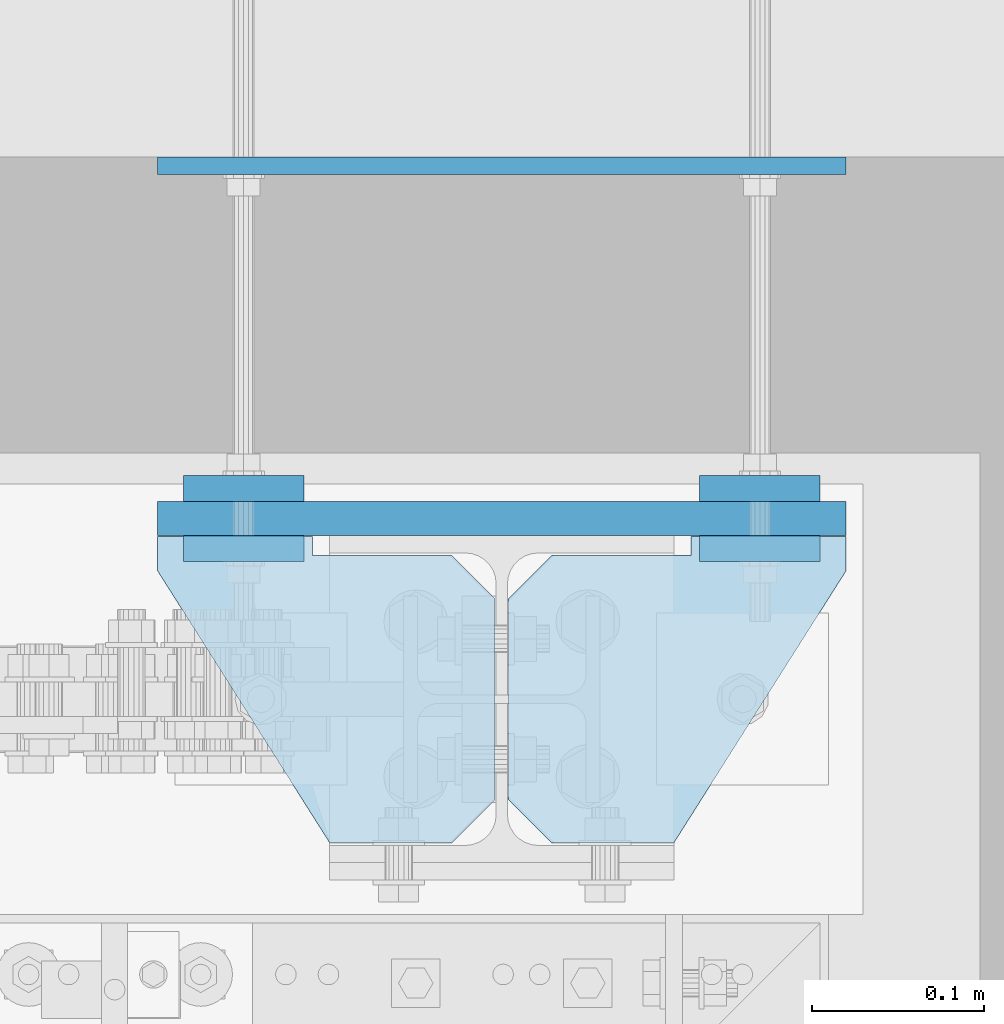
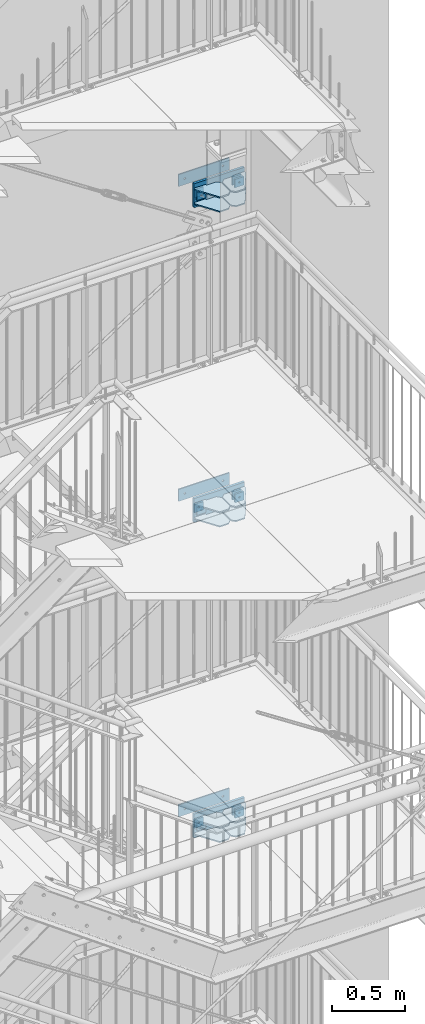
# One storey, part 211 of 825: 30 plates, 48 openings.
"""IFC2X3 building model written with IfcOpenShell, lengths in millimetres."""

from ifc_helpers import new_model, entity, si_unit, converted_unit, frame, frame_2d, origin, origin_with_axes, origin_2d_with_axis, place, context, project, spatial, polyline, circle, outline, extrude, material, layer, layer_set, element, save


model = new_model("IFC2X3")

# Units and contexts
model_context = context("Model", 3, precision=1e-09, world=origin_with_axes())
ifc_project = project(units=[si_unit("LENGTHUNIT", "METRE", prefix="MILLI"), si_unit("AREAUNIT", "SQUARE_METRE"), si_unit("VOLUMEUNIT", "CUBIC_METRE"), converted_unit("PLANEANGLEUNIT", "DEGREE", entity("IfcPlaneAngleMeasure", 0.01745329), si_unit("PLANEANGLEUNIT", "RADIAN"), dimensions=[0, 0, 0, 0, 0, 0, 0])], contexts=[model_context])

# Site, building, storey
site_placement = place(None, origin_with_axes())
site = spatial("IfcSite", under=ifc_project, at=site_placement, Name="Cnopf'sche Kinderklinik", CompositionType="ELEMENT")
building_placement = place(site_placement, origin_with_axes())
building = spatial("IfcBuilding", under=site, at=building_placement, Name="Struktur 1", CompositionType="ELEMENT")
storey_placement = place(building_placement, origin_with_axes())
storey = spatial("IfcBuildingStorey", under=building, at=storey_placement, Name="Default Storey", CompositionType="ELEMENT", Elevation=0.0)

# Plate, opening
ifc_material = material(Name="S235JR")
ifc_layer_1 = layer(ifc_material, 15.0)
ifc_layer_set_1 = layer_set([ifc_layer_1], Name="S235JR")
plate_1_placement = place(None, frame((9016.713403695, 7611.736971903, 7255.0), z_axis=(0.0, 1.0, 0.0), x_axis=(-1.0, 0.0, 0.0)))
plate_1 = element("IfcPlate", 1, at=plate_1_placement, inside=storey, material=ifc_layer_set_1, Name="-", ObjectType="-", context=model_context, shape_type="SweptSolid", body=[
    extrude(outline(polyline([(-35.0, -35.0), (35.0, -35.0), (35.0, 35.0), (-35.0, 35.0), (-35.0, -35.0)])), origin_with_axes(), (0.0, 0.0, -1.0), 15.0),
])
opening_1_placement = place(plate_1_placement, frame((-7.001000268, 0.0, 0.5), z_axis=(0.0, 0.0, 1.0), x_axis=(1.0, 0.0, 0.0)))
element("IfcOpeningElement", 2, at=opening_1_placement, cuts=plate_1, ObjectType="Opening", context=model_context, shape_type="SweptSolid", body=[
    extrude(circle(Radius=7.001, at=frame_2d((7.001, 0.0), x_axis=(1.0, 0.0))), origin(), (0.0, 0.0, -1.0), 16.0),
])

plate_2_placement = place(None, frame((9016.713403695, 7646.736971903, 7255.0), z_axis=(0.0, 1.0, 0.0), x_axis=(-1.0, 0.0, 0.0)))
plate_2 = element("IfcPlate", 3, at=plate_2_placement, inside=storey, material=ifc_layer_set_1, Name="-", ObjectType="-", context=model_context, shape_type="SweptSolid", body=[
    extrude(outline(polyline([(-35.0, -35.0), (35.0, -35.0), (35.0, 35.0), (-35.0, 35.0), (-35.0, -35.0)])), origin_with_axes(), (0.0, 0.0, -1.0), 15.0),
])
opening_2_placement = place(plate_2_placement, frame((-7.001000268, 0.0, 0.5), z_axis=(0.0, 0.0, 1.0), x_axis=(1.0, 0.0, 0.0)))
element("IfcOpeningElement", 4, at=opening_2_placement, cuts=plate_2, ObjectType="Opening", context=model_context, shape_type="SweptSolid", body=[
    extrude(circle(Radius=7.001, at=frame_2d((7.001, 0.0), x_axis=(1.0, 0.0))), origin(), (0.0, 0.0, -1.0), 16.0),
])

# Plate, openings
ifc_layer_2 = layer(ifc_material, 10.0)
ifc_layer_set_2 = layer_set([ifc_layer_2], Name="S235JR")
plate_3_placement = place(None, frame((8866.713402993, 7831.736971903, 7255.000000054), z_axis=(0.0, -1.0, 0.0), x_axis=(1.0, 0.0, 0.0)))
plate_3 = element("IfcPlate", 5, at=plate_3_placement, inside=storey, material=ifc_layer_set_2, Name="-", ObjectType="-", context=model_context, shape_type="SweptSolid", body=[
    extrude(outline(polyline([(-200.0, -50.0), (200.0, -50.0), (200.0, 50.0), (-200.0, 50.0), (-200.0, -50.0)])), origin_with_axes(), (0.0, 0.0, 1.0), 10.0),
])
opening_3_placement = place(plate_3_placement, frame((-3.4e-08, -5.4e-08, -0.5), z_axis=(0.0, 0.0, 1.0), x_axis=(1.0, 0.0, 0.0)))
element("IfcOpeningElement", 6, at=opening_3_placement, cuts=plate_3, ObjectType="Opening", context=model_context, shape_type="SweptSolid", body=[
    extrude(circle(Radius=7.001, at=frame_2d((150.0, 0.0), x_axis=(1.0, 0.0))), origin(), (0.0, 0.0, 1.0), 11.0),
])
opening_4_placement = place(plate_3_placement, frame((-3.4e-08, -5.4e-08, -0.5), z_axis=(0.0, 0.0, 1.0), x_axis=(1.0, 0.0, 0.0)))
element("IfcOpeningElement", 7, at=opening_4_placement, cuts=plate_3, ObjectType="Opening", context=model_context, shape_type="SweptSolid", body=[
    extrude(circle(Radius=7.001, at=frame_2d((-150.0, 0.0), x_axis=(1.0, 0.0))), origin(), (0.0, 0.0, 1.0), 11.0),
])

plate_4_placement = place(None, frame((8666.713402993, 7611.236971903, 7310.000000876), z_axis=(0.0, 0.0, 1.0), x_axis=(0.0, -1.0, 0.0)))
plate_4 = element("IfcPlate", 8, at=plate_4_placement, inside=storey, material=ifc_layer_set_2, Name="-", ObjectType="-", context=model_context, shape_type="SweptSolid", body=[
    extrude(outline(polyline([(0.0, 0.0), (20.0, 0.0), (178.0, 100.0), (178.0, 196.0), (11.0, 196.0), (11.0, 90.0), (0.0, 90.0), (0.0, 0.0)])), origin_with_axes(), (0.0, 0.0, 1.0), 10.0),
])
opening_5_placement = place(plate_4_placement, frame((0.0, 0.0, -0.01), z_axis=(0.0, 0.0, 1.0), x_axis=(1.0, 0.0, 0.0)))
element("IfcOpeningElement", 9, at=opening_5_placement, cuts=plate_4, ObjectType="Opening", context=model_context, shape_type="SweptSolid", body=[
    extrude(outline(polyline([(11.0, 196.0), (11.0, 171.0), (36.0, 196.0), (11.0, 196.0)])), origin(), (0.0, 0.0, 1.0), 10.02),
])
opening_6_placement = place(plate_4_placement, frame((0.0, 0.0, -0.01), z_axis=(0.0, 0.0, 1.0), x_axis=(1.0, 0.0, 0.0)))
element("IfcOpeningElement", 10, at=opening_6_placement, cuts=plate_4, ObjectType="Opening", context=model_context, shape_type="SweptSolid", body=[
    extrude(outline(polyline([(178.0, 196.0), (153.0, 196.0), (178.0, 171.0), (178.0, 196.0)])), origin(), (0.0, 0.0, 1.0), 10.02),
])

plate_5_placement = place(None, frame((9066.713402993, 7611.236971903, 7310.000000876), z_axis=(0.0, 0.0, -1.0), x_axis=(0.0, -1.0, 0.0)))
plate_5 = element("IfcPlate", 11, at=plate_5_placement, inside=storey, material=ifc_layer_set_2, Name="-", ObjectType="-", context=model_context, shape_type="SweptSolid", body=[
    extrude(outline(polyline([(0.0, 0.0), (20.0, 0.0), (178.0, 100.0), (178.0, 196.0), (11.0, 196.0), (11.0, 90.0), (0.0, 90.0), (0.0, 0.0)])), origin_with_axes(), (0.0, 0.0, -1.0), 10.0),
])
opening_7_placement = place(plate_5_placement, frame((11.0, 196.0, 0.01), z_axis=(0.0, 0.0, 1.0), x_axis=(0.0, -1.0, 0.0)))
element("IfcOpeningElement", 12, at=opening_7_placement, cuts=plate_5, ObjectType="Opening", context=model_context, shape_type="SweptSolid", body=[
    extrude(outline(polyline([(0.0, 0.0), (25.0, 0.0), (0.0, 25.0), (0.0, 0.0)])), origin(), (0.0, 0.0, -1.0), 10.02),
])
opening_8_placement = place(plate_5_placement, frame((178.0, 196.0, 0.01), z_axis=(0.0, 0.0, 1.0), x_axis=(-1.0, 0.0, 0.0)))
element("IfcOpeningElement", 13, at=opening_8_placement, cuts=plate_5, ObjectType="Opening", context=model_context, shape_type="SweptSolid", body=[
    extrude(outline(polyline([(0.0, 0.0), (25.0, 0.0), (0.0, 25.0), (0.0, 0.0)])), origin(), (0.0, 0.0, -1.0), 10.02),
])

plate_6_placement = place(None, frame((8666.713402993, 7611.236971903, 7190.000000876), z_axis=(0.0, 0.0, 1.0), x_axis=(0.0, -1.0, 0.0)))
plate_6 = element("IfcPlate", 14, at=plate_6_placement, inside=storey, material=ifc_layer_set_2, Name="-", ObjectType="-", context=model_context, shape_type="SweptSolid", body=[
    extrude(outline(polyline([(0.0, 0.0), (20.0, 0.0), (178.0, 100.0), (178.0, 196.0), (11.0, 196.0), (11.0, 90.0), (0.0, 90.0), (0.0, 0.0)])), origin_with_axes(), (0.0, 0.0, 1.0), 10.0),
])
opening_9_placement = place(plate_6_placement, frame((0.0, 0.0, -0.01), z_axis=(0.0, 0.0, 1.0), x_axis=(1.0, 0.0, 0.0)))
element("IfcOpeningElement", 15, at=opening_9_placement, cuts=plate_6, ObjectType="Opening", context=model_context, shape_type="SweptSolid", body=[
    extrude(outline(polyline([(11.0, 196.0), (11.0, 171.0), (36.0, 196.0), (11.0, 196.0)])), origin(), (0.0, 0.0, 1.0), 10.02),
])
opening_10_placement = place(plate_6_placement, frame((0.0, 0.0, -0.01), z_axis=(0.0, 0.0, 1.0), x_axis=(1.0, 0.0, 0.0)))
element("IfcOpeningElement", 16, at=opening_10_placement, cuts=plate_6, ObjectType="Opening", context=model_context, shape_type="SweptSolid", body=[
    extrude(outline(polyline([(178.0, 196.0), (153.0, 196.0), (178.0, 171.0), (178.0, 196.0)])), origin(), (0.0, 0.0, 1.0), 10.02),
])

plate_7_placement = place(None, frame((9066.713402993, 7611.236971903, 7190.000000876), z_axis=(0.0, 0.0, -1.0), x_axis=(0.0, -1.0, 0.0)))
plate_7 = element("IfcPlate", 17, at=plate_7_placement, inside=storey, material=ifc_layer_set_2, Name="-", ObjectType="-", context=model_context, shape_type="SweptSolid", body=[
    extrude(outline(polyline([(0.0, 0.0), (20.0, 0.0), (178.0, 100.0), (178.0, 196.0), (11.0, 196.0), (11.0, 90.0), (0.0, 90.0), (0.0, 0.0)])), origin_with_axes(), (0.0, 0.0, -1.0), 10.0),
])
opening_11_placement = place(plate_7_placement, frame((11.0, 196.0, 0.01), z_axis=(0.0, 0.0, 1.0), x_axis=(0.0, -1.0, 0.0)))
element("IfcOpeningElement", 18, at=opening_11_placement, cuts=plate_7, ObjectType="Opening", context=model_context, shape_type="SweptSolid", body=[
    extrude(outline(polyline([(0.0, 0.0), (25.0, 0.0), (0.0, 25.0), (0.0, 0.0)])), origin(), (0.0, 0.0, -1.0), 10.02),
])
opening_12_placement = place(plate_7_placement, frame((178.0, 196.0, 0.01), z_axis=(0.0, 0.0, 1.0), x_axis=(-1.0, 0.0, 0.0)))
element("IfcOpeningElement", 19, at=opening_12_placement, cuts=plate_7, ObjectType="Opening", context=model_context, shape_type="SweptSolid", body=[
    extrude(outline(polyline([(0.0, 0.0), (25.0, 0.0), (0.0, 25.0), (0.0, 0.0)])), origin(), (0.0, 0.0, -1.0), 10.02),
])

ifc_layer_3 = layer(ifc_material, 20.0)
ifc_layer_set_3 = layer_set([ifc_layer_3], Name="S235JR")
plate_8_placement = place(None, frame((8866.713402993, 7631.736971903, 7255.000000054), z_axis=(0.0, -1.0, 0.0), x_axis=(1.0, 0.0, 0.0)))
plate_8 = element("IfcPlate", 20, at=plate_8_placement, inside=storey, material=ifc_layer_set_3, Name="-", ObjectType="-", context=model_context, shape_type="SweptSolid", body=[
    extrude(outline(polyline([(-200.0, -100.0), (200.0, -100.0), (200.0, 100.0), (-200.0, 100.0), (-200.0, -100.0)])), origin_with_axes(), (0.0, 0.0, 1.0), 20.0),
])
opening_13_placement = place(plate_8_placement, frame((-3.4e-08, -5.4e-08, -0.5), z_axis=(0.0, 0.0, 1.0), x_axis=(1.0, 0.0, 0.0)))
element("IfcOpeningElement", 21, at=opening_13_placement, cuts=plate_8, ObjectType="Opening", context=model_context, shape_type="SweptSolid", body=[
    extrude(circle(Radius=20.001, at=frame_2d((150.0, 0.0), x_axis=(1.0, 0.0))), origin(), (0.0, 0.0, 1.0), 21.0),
])
opening_14_placement = place(plate_8_placement, frame((-3.4e-08, -5.4e-08, -0.5), z_axis=(0.0, 0.0, 1.0), x_axis=(1.0, 0.0, 0.0)))
element("IfcOpeningElement", 22, at=opening_14_placement, cuts=plate_8, ObjectType="Opening", context=model_context, shape_type="SweptSolid", body=[
    extrude(circle(Radius=20.001, at=frame_2d((-150.0, 0.0), x_axis=(1.0, 0.0))), origin(), (0.0, 0.0, 1.0), 21.0),
])

# Plate, opening
plate_9_placement = place(None, frame((8716.71340296, 7611.736971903, 7255.0), z_axis=(0.0, -1.0, 0.0), x_axis=(1.0, 0.0, 0.0)))
plate_9 = element("IfcPlate", 23, at=plate_9_placement, inside=storey, material=ifc_layer_set_1, Name="-", ObjectType="-", context=model_context, shape_type="SweptSolid", body=[
    extrude(outline(polyline([(-35.0, -35.0), (35.0, -35.0), (35.0, 35.0), (-35.0, 35.0), (-35.0, -35.0)])), origin_with_axes(), (0.0, 0.0, 1.0), 15.0),
])
opening_15_placement = place(plate_9_placement, frame((-2.68e-07, 0.0, -0.5), z_axis=(0.0, 0.0, 1.0), x_axis=(1.0, 0.0, 0.0)))
element("IfcOpeningElement", 24, at=opening_15_placement, cuts=plate_9, ObjectType="Opening", context=model_context, shape_type="SweptSolid", body=[
    extrude(circle(Radius=7.001, at=origin_2d_with_axis()), origin(), (0.0, 0.0, 1.0), 16.0),
])

plate_10_placement = place(None, frame((8716.71340296, 7646.736971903, 7255.0), z_axis=(0.0, -1.0, 0.0), x_axis=(1.0, 0.0, 0.0)))
plate_10 = element("IfcPlate", 25, at=plate_10_placement, inside=storey, material=ifc_layer_set_1, Name="-", ObjectType="-", context=model_context, shape_type="SweptSolid", body=[
    extrude(outline(polyline([(-35.0, -35.0), (35.0, -35.0), (35.0, 35.0), (-35.0, 35.0), (-35.0, -35.0)])), origin_with_axes(), (0.0, 0.0, 1.0), 15.0),
])
opening_16_placement = place(plate_10_placement, frame((-2.68e-07, 0.0, -0.5), z_axis=(0.0, 0.0, 1.0), x_axis=(1.0, 0.0, 0.0)))
element("IfcOpeningElement", 26, at=opening_16_placement, cuts=plate_10, ObjectType="Opening", context=model_context, shape_type="SweptSolid", body=[
    extrude(circle(Radius=7.001, at=origin_2d_with_axis()), origin(), (0.0, 0.0, 1.0), 16.0),
])

# Plate, openings
plate_11_placement = place(None, frame((8866.713402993, 7631.736971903, 9887.000000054), z_axis=(0.0, -1.0, 0.0), x_axis=(1.0, 0.0, 0.0)))
plate_11 = element("IfcPlate", 27, at=plate_11_placement, inside=storey, material=ifc_layer_set_3, Name="-", ObjectType="-", context=model_context, shape_type="SweptSolid", body=[
    extrude(outline(polyline([(-200.0, -100.0), (200.0, -100.0), (200.0, 100.0), (-200.0, 100.0), (-200.0, -100.0)])), origin_with_axes(), (0.0, 0.0, 1.0), 20.0),
])
opening_17_placement = place(plate_11_placement, frame((-3.4e-08, -5.4e-08, -0.5), z_axis=(0.0, 0.0, 1.0), x_axis=(1.0, 0.0, 0.0)))
element("IfcOpeningElement", 28, at=opening_17_placement, cuts=plate_11, ObjectType="Opening", context=model_context, shape_type="SweptSolid", body=[
    extrude(circle(Radius=20.001, at=frame_2d((150.0, 0.0), x_axis=(1.0, 0.0))), origin(), (0.0, 0.0, 1.0), 21.0),
])
opening_18_placement = place(plate_11_placement, frame((-3.4e-08, -5.4e-08, -0.5), z_axis=(0.0, 0.0, 1.0), x_axis=(1.0, 0.0, 0.0)))
element("IfcOpeningElement", 29, at=opening_18_placement, cuts=plate_11, ObjectType="Opening", context=model_context, shape_type="SweptSolid", body=[
    extrude(circle(Radius=20.001, at=frame_2d((-150.0, 0.0), x_axis=(1.0, 0.0))), origin(), (0.0, 0.0, 1.0), 21.0),
])

# Plate, opening
plate_12_placement = place(None, frame((8716.71340296, 7611.736971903, 9887.0), z_axis=(0.0, -1.0, 0.0), x_axis=(1.0, 0.0, 0.0)))
plate_12 = element("IfcPlate", 30, at=plate_12_placement, inside=storey, material=ifc_layer_set_1, Name="-", ObjectType="-", context=model_context, shape_type="SweptSolid", body=[
    extrude(outline(polyline([(-35.0, -35.0), (35.0, -35.0), (35.0, 35.0), (-35.0, 35.0), (-35.0, -35.0)])), origin_with_axes(), (0.0, 0.0, 1.0), 15.0),
])
opening_19_placement = place(plate_12_placement, frame((-2.68e-07, 0.0, -0.5), z_axis=(0.0, 0.0, 1.0), x_axis=(1.0, 0.0, 0.0)))
element("IfcOpeningElement", 31, at=opening_19_placement, cuts=plate_12, ObjectType="Opening", context=model_context, shape_type="SweptSolid", body=[
    extrude(circle(Radius=7.001, at=origin_2d_with_axis()), origin(), (0.0, 0.0, 1.0), 16.0),
])

plate_13_placement = place(None, frame((8716.71340296, 7646.736971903, 9887.0), z_axis=(0.0, -1.0, 0.0), x_axis=(1.0, 0.0, 0.0)))
plate_13 = element("IfcPlate", 32, at=plate_13_placement, inside=storey, material=ifc_layer_set_1, Name="-", ObjectType="-", context=model_context, shape_type="SweptSolid", body=[
    extrude(outline(polyline([(-35.0, -35.0), (35.0, -35.0), (35.0, 35.0), (-35.0, 35.0), (-35.0, -35.0)])), origin_with_axes(), (0.0, 0.0, 1.0), 15.0),
])
opening_20_placement = place(plate_13_placement, frame((-2.68e-07, 0.0, -0.5), z_axis=(0.0, 0.0, 1.0), x_axis=(1.0, 0.0, 0.0)))
element("IfcOpeningElement", 33, at=opening_20_placement, cuts=plate_13, ObjectType="Opening", context=model_context, shape_type="SweptSolid", body=[
    extrude(circle(Radius=7.001, at=origin_2d_with_axis()), origin(), (0.0, 0.0, 1.0), 16.0),
])

# Plate, openings
plate_14_placement = place(None, frame((8866.713402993, 7831.736971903, 9887.000000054), z_axis=(0.0, -1.0, 0.0), x_axis=(1.0, 0.0, 0.0)))
plate_14 = element("IfcPlate", 34, at=plate_14_placement, inside=storey, material=ifc_layer_set_2, Name="-", ObjectType="-", context=model_context, shape_type="SweptSolid", body=[
    extrude(outline(polyline([(-200.0, -50.0), (200.0, -50.0), (200.0, 50.0), (-200.0, 50.0), (-200.0, -50.0)])), origin_with_axes(), (0.0, 0.0, 1.0), 10.0),
])
opening_21_placement = place(plate_14_placement, frame((-3.4e-08, -5.4e-08, -0.5), z_axis=(0.0, 0.0, 1.0), x_axis=(1.0, 0.0, 0.0)))
element("IfcOpeningElement", 35, at=opening_21_placement, cuts=plate_14, ObjectType="Opening", context=model_context, shape_type="SweptSolid", body=[
    extrude(circle(Radius=7.001, at=frame_2d((150.0, 0.0), x_axis=(1.0, 0.0))), origin(), (0.0, 0.0, 1.0), 11.0),
])
opening_22_placement = place(plate_14_placement, frame((-3.4e-08, -5.4e-08, -0.5), z_axis=(0.0, 0.0, 1.0), x_axis=(1.0, 0.0, 0.0)))
element("IfcOpeningElement", 36, at=opening_22_placement, cuts=plate_14, ObjectType="Opening", context=model_context, shape_type="SweptSolid", body=[
    extrude(circle(Radius=7.001, at=frame_2d((-150.0, 0.0), x_axis=(1.0, 0.0))), origin(), (0.0, 0.0, 1.0), 11.0),
])

plate_15_placement = place(None, frame((8666.713402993, 7611.236971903, 9942.000000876), z_axis=(0.0, 0.0, 1.0), x_axis=(0.0, -1.0, 0.0)))
plate_15 = element("IfcPlate", 37, at=plate_15_placement, inside=storey, material=ifc_layer_set_2, Name="-", ObjectType="-", context=model_context, shape_type="SweptSolid", body=[
    extrude(outline(polyline([(0.0, 0.0), (20.0, 0.0), (178.0, 100.0), (178.0, 196.0), (11.0, 196.0), (11.0, 90.0), (0.0, 90.0), (0.0, 0.0)])), origin_with_axes(), (0.0, 0.0, 1.0), 10.0),
])
opening_23_placement = place(plate_15_placement, frame((0.0, 0.0, -0.01), z_axis=(0.0, 0.0, 1.0), x_axis=(1.0, 0.0, 0.0)))
element("IfcOpeningElement", 38, at=opening_23_placement, cuts=plate_15, ObjectType="Opening", context=model_context, shape_type="SweptSolid", body=[
    extrude(outline(polyline([(11.0, 196.0), (11.0, 171.0), (36.0, 196.0), (11.0, 196.0)])), origin(), (0.0, 0.0, 1.0), 10.02),
])
opening_24_placement = place(plate_15_placement, frame((0.0, 0.0, -0.01), z_axis=(0.0, 0.0, 1.0), x_axis=(1.0, 0.0, 0.0)))
element("IfcOpeningElement", 39, at=opening_24_placement, cuts=plate_15, ObjectType="Opening", context=model_context, shape_type="SweptSolid", body=[
    extrude(outline(polyline([(178.0, 196.0), (153.0, 196.0), (178.0, 171.0), (178.0, 196.0)])), origin(), (0.0, 0.0, 1.0), 10.02),
])

plate_16_placement = place(None, frame((9066.713402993, 7611.236971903, 9942.000000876), z_axis=(0.0, 0.0, -1.0), x_axis=(0.0, -1.0, 0.0)))
plate_16 = element("IfcPlate", 40, at=plate_16_placement, inside=storey, material=ifc_layer_set_2, Name="-", ObjectType="-", context=model_context, shape_type="SweptSolid", body=[
    extrude(outline(polyline([(0.0, 0.0), (20.0, 0.0), (178.0, 100.0), (178.0, 196.0), (11.0, 196.0), (11.0, 90.0), (0.0, 90.0), (0.0, 0.0)])), origin_with_axes(), (0.0, 0.0, -1.0), 10.0),
])
opening_25_placement = place(plate_16_placement, frame((11.0, 196.0, 0.01), z_axis=(0.0, 0.0, 1.0), x_axis=(0.0, -1.0, 0.0)))
element("IfcOpeningElement", 41, at=opening_25_placement, cuts=plate_16, ObjectType="Opening", context=model_context, shape_type="SweptSolid", body=[
    extrude(outline(polyline([(0.0, 0.0), (25.0, 0.0), (0.0, 25.0), (0.0, 0.0)])), origin(), (0.0, 0.0, -1.0), 10.02),
])
opening_26_placement = place(plate_16_placement, frame((178.0, 196.0, 0.01), z_axis=(0.0, 0.0, 1.0), x_axis=(-1.0, 0.0, 0.0)))
element("IfcOpeningElement", 42, at=opening_26_placement, cuts=plate_16, ObjectType="Opening", context=model_context, shape_type="SweptSolid", body=[
    extrude(outline(polyline([(0.0, 0.0), (25.0, 0.0), (0.0, 25.0), (0.0, 0.0)])), origin(), (0.0, 0.0, -1.0), 10.02),
])

plate_17_placement = place(None, frame((8666.713402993, 7611.236971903, 9822.000000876), z_axis=(0.0, 0.0, 1.0), x_axis=(0.0, -1.0, 0.0)))
plate_17 = element("IfcPlate", 43, at=plate_17_placement, inside=storey, material=ifc_layer_set_2, Name="-", ObjectType="-", context=model_context, shape_type="SweptSolid", body=[
    extrude(outline(polyline([(0.0, 0.0), (20.0, 0.0), (178.0, 100.0), (178.0, 196.0), (11.0, 196.0), (11.0, 90.0), (0.0, 90.0), (0.0, 0.0)])), origin_with_axes(), (0.0, 0.0, 1.0), 10.0),
])
opening_27_placement = place(plate_17_placement, frame((0.0, 0.0, -0.01), z_axis=(0.0, 0.0, 1.0), x_axis=(1.0, 0.0, 0.0)))
element("IfcOpeningElement", 44, at=opening_27_placement, cuts=plate_17, ObjectType="Opening", context=model_context, shape_type="SweptSolid", body=[
    extrude(outline(polyline([(11.0, 196.0), (11.0, 171.0), (36.0, 196.0), (11.0, 196.0)])), origin(), (0.0, 0.0, 1.0), 10.02),
])
opening_28_placement = place(plate_17_placement, frame((0.0, 0.0, -0.01), z_axis=(0.0, 0.0, 1.0), x_axis=(1.0, 0.0, 0.0)))
element("IfcOpeningElement", 45, at=opening_28_placement, cuts=plate_17, ObjectType="Opening", context=model_context, shape_type="SweptSolid", body=[
    extrude(outline(polyline([(178.0, 196.0), (153.0, 196.0), (178.0, 171.0), (178.0, 196.0)])), origin(), (0.0, 0.0, 1.0), 10.02),
])

plate_18_placement = place(None, frame((9066.713402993, 7611.236971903, 9822.000000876), z_axis=(0.0, 0.0, -1.0), x_axis=(0.0, -1.0, 0.0)))
plate_18 = element("IfcPlate", 46, at=plate_18_placement, inside=storey, material=ifc_layer_set_2, Name="-", ObjectType="-", context=model_context, shape_type="SweptSolid", body=[
    extrude(outline(polyline([(0.0, 0.0), (20.0, 0.0), (178.0, 100.0), (178.0, 196.0), (11.0, 196.0), (11.0, 90.0), (0.0, 90.0), (0.0, 0.0)])), origin_with_axes(), (0.0, 0.0, -1.0), 10.0),
])
opening_29_placement = place(plate_18_placement, frame((11.0, 196.0, 0.01), z_axis=(0.0, 0.0, 1.0), x_axis=(0.0, -1.0, 0.0)))
element("IfcOpeningElement", 47, at=opening_29_placement, cuts=plate_18, ObjectType="Opening", context=model_context, shape_type="SweptSolid", body=[
    extrude(outline(polyline([(0.0, 0.0), (25.0, 0.0), (0.0, 25.0), (0.0, 0.0)])), origin(), (0.0, 0.0, -1.0), 10.02),
])
opening_30_placement = place(plate_18_placement, frame((178.0, 196.0, 0.01), z_axis=(0.0, 0.0, 1.0), x_axis=(-1.0, 0.0, 0.0)))
element("IfcOpeningElement", 48, at=opening_30_placement, cuts=plate_18, ObjectType="Opening", context=model_context, shape_type="SweptSolid", body=[
    extrude(outline(polyline([(0.0, 0.0), (25.0, 0.0), (0.0, 25.0), (0.0, 0.0)])), origin(), (0.0, 0.0, -1.0), 10.02),
])

# Plate, opening
plate_19_placement = place(None, frame((9016.713403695, 7611.736971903, 9887.0), z_axis=(0.0, 1.0, 0.0), x_axis=(-1.0, 0.0, 0.0)))
plate_19 = element("IfcPlate", 49, at=plate_19_placement, inside=storey, material=ifc_layer_set_1, Name="-", ObjectType="-", context=model_context, shape_type="SweptSolid", body=[
    extrude(outline(polyline([(-35.0, -35.0), (35.0, -35.0), (35.0, 35.0), (-35.0, 35.0), (-35.0, -35.0)])), origin_with_axes(), (0.0, 0.0, -1.0), 15.0),
])
opening_31_placement = place(plate_19_placement, frame((-7.001000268, 0.0, 0.5), z_axis=(0.0, 0.0, 1.0), x_axis=(1.0, 0.0, 0.0)))
element("IfcOpeningElement", 50, at=opening_31_placement, cuts=plate_19, ObjectType="Opening", context=model_context, shape_type="SweptSolid", body=[
    extrude(circle(Radius=7.001, at=frame_2d((7.001, 0.0), x_axis=(1.0, 0.0))), origin(), (0.0, 0.0, -1.0), 16.0),
])

plate_20_placement = place(None, frame((9016.713403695, 7646.736971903, 9887.0), z_axis=(0.0, 1.0, 0.0), x_axis=(-1.0, 0.0, 0.0)))
plate_20 = element("IfcPlate", 51, at=plate_20_placement, inside=storey, material=ifc_layer_set_1, Name="-", ObjectType="-", context=model_context, shape_type="SweptSolid", body=[
    extrude(outline(polyline([(-35.0, -35.0), (35.0, -35.0), (35.0, 35.0), (-35.0, 35.0), (-35.0, -35.0)])), origin_with_axes(), (0.0, 0.0, -1.0), 15.0),
])
opening_32_placement = place(plate_20_placement, frame((-7.001000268, 0.0, 0.5), z_axis=(0.0, 0.0, 1.0), x_axis=(1.0, 0.0, 0.0)))
element("IfcOpeningElement", 52, at=opening_32_placement, cuts=plate_20, ObjectType="Opening", context=model_context, shape_type="SweptSolid", body=[
    extrude(circle(Radius=7.001, at=frame_2d((7.001, 0.0), x_axis=(1.0, 0.0))), origin(), (0.0, 0.0, -1.0), 16.0),
])

plate_21_placement = place(None, frame((9016.713403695, 7646.736971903, 12514.0), z_axis=(0.0, 1.0, 0.0), x_axis=(-1.0, 0.0, 0.0)))
plate_21 = element("IfcPlate", 53, at=plate_21_placement, inside=storey, material=ifc_layer_set_1, Name="-", ObjectType="-", context=model_context, shape_type="SweptSolid", body=[
    extrude(outline(polyline([(-35.0, -35.0), (35.0, -35.0), (35.0, 35.0), (-35.0, 35.0), (-35.0, -35.0)])), origin_with_axes(), (0.0, 0.0, -1.0), 15.0),
])
opening_33_placement = place(plate_21_placement, frame((-7.001000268, 0.0, 0.5), z_axis=(0.0, 0.0, 1.0), x_axis=(1.0, 0.0, 0.0)))
element("IfcOpeningElement", 54, at=opening_33_placement, cuts=plate_21, ObjectType="Opening", context=model_context, shape_type="SweptSolid", body=[
    extrude(circle(Radius=7.001, at=frame_2d((7.001, 0.0), x_axis=(1.0, 0.0))), origin(), (0.0, 0.0, -1.0), 16.0),
])

plate_22_placement = place(None, frame((9016.713403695, 7611.736971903, 12514.0), z_axis=(0.0, 1.0, 0.0), x_axis=(-1.0, 0.0, 0.0)))
plate_22 = element("IfcPlate", 55, at=plate_22_placement, inside=storey, material=ifc_layer_set_1, Name="-", ObjectType="-", context=model_context, shape_type="SweptSolid", body=[
    extrude(outline(polyline([(-35.0, -35.0), (35.0, -35.0), (35.0, 35.0), (-35.0, 35.0), (-35.0, -35.0)])), origin_with_axes(), (0.0, 0.0, -1.0), 15.0),
])
opening_34_placement = place(plate_22_placement, frame((-7.001000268, 0.0, 0.5), z_axis=(0.0, 0.0, 1.0), x_axis=(1.0, 0.0, 0.0)))
element("IfcOpeningElement", 56, at=opening_34_placement, cuts=plate_22, ObjectType="Opening", context=model_context, shape_type="SweptSolid", body=[
    extrude(circle(Radius=7.001, at=frame_2d((7.001, 0.0), x_axis=(1.0, 0.0))), origin(), (0.0, 0.0, -1.0), 16.0),
])

# Plate, openings
plate_23_placement = place(None, frame((8866.713402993, 7831.736971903, 12514.000000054), z_axis=(0.0, -1.0, 0.0), x_axis=(1.0, 0.0, 0.0)))
plate_23 = element("IfcPlate", 57, at=plate_23_placement, inside=storey, material=ifc_layer_set_2, Name="-", ObjectType="-", context=model_context, shape_type="SweptSolid", body=[
    extrude(outline(polyline([(-200.0, -50.0), (200.0, -50.0), (200.0, 50.0), (-200.0, 50.0), (-200.0, -50.0)])), origin_with_axes(), (0.0, 0.0, 1.0), 10.0),
])
opening_35_placement = place(plate_23_placement, frame((-3.4e-08, -5.4e-08, -0.5), z_axis=(0.0, 0.0, 1.0), x_axis=(1.0, 0.0, 0.0)))
element("IfcOpeningElement", 58, at=opening_35_placement, cuts=plate_23, ObjectType="Opening", context=model_context, shape_type="SweptSolid", body=[
    extrude(circle(Radius=7.001, at=frame_2d((150.0, 0.0), x_axis=(1.0, 0.0))), origin(), (0.0, 0.0, 1.0), 11.0),
])
opening_36_placement = place(plate_23_placement, frame((-3.4e-08, -5.4e-08, -0.5), z_axis=(0.0, 0.0, 1.0), x_axis=(1.0, 0.0, 0.0)))
element("IfcOpeningElement", 59, at=opening_36_placement, cuts=plate_23, ObjectType="Opening", context=model_context, shape_type="SweptSolid", body=[
    extrude(circle(Radius=7.001, at=frame_2d((-150.0, 0.0), x_axis=(1.0, 0.0))), origin(), (0.0, 0.0, 1.0), 11.0),
])

# Plate, opening
plate_24_placement = place(None, frame((8716.71340296, 7646.736971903, 12514.0), z_axis=(0.0, -1.0, 0.0), x_axis=(1.0, 0.0, 0.0)))
plate_24 = element("IfcPlate", 60, at=plate_24_placement, inside=storey, material=ifc_layer_set_1, Name="-", ObjectType="-", context=model_context, shape_type="SweptSolid", body=[
    extrude(outline(polyline([(-35.0, -35.0), (35.0, -35.0), (35.0, 35.0), (-35.0, 35.0), (-35.0, -35.0)])), origin_with_axes(), (0.0, 0.0, 1.0), 15.0),
])
opening_37_placement = place(plate_24_placement, frame((-2.68e-07, 0.0, -0.5), z_axis=(0.0, 0.0, 1.0), x_axis=(1.0, 0.0, 0.0)))
element("IfcOpeningElement", 61, at=opening_37_placement, cuts=plate_24, ObjectType="Opening", context=model_context, shape_type="SweptSolid", body=[
    extrude(circle(Radius=7.001, at=origin_2d_with_axis()), origin(), (0.0, 0.0, 1.0), 16.0),
])

plate_25_placement = place(None, frame((8716.71340296, 7611.736971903, 12514.0), z_axis=(0.0, -1.0, 0.0), x_axis=(1.0, 0.0, 0.0)))
plate_25 = element("IfcPlate", 62, at=plate_25_placement, inside=storey, material=ifc_layer_set_1, Name="-", ObjectType="-", context=model_context, shape_type="SweptSolid", body=[
    extrude(outline(polyline([(-35.0, -35.0), (35.0, -35.0), (35.0, 35.0), (-35.0, 35.0), (-35.0, -35.0)])), origin_with_axes(), (0.0, 0.0, 1.0), 15.0),
])
opening_38_placement = place(plate_25_placement, frame((-2.68e-07, 0.0, -0.5), z_axis=(0.0, 0.0, 1.0), x_axis=(1.0, 0.0, 0.0)))
element("IfcOpeningElement", 63, at=opening_38_placement, cuts=plate_25, ObjectType="Opening", context=model_context, shape_type="SweptSolid", body=[
    extrude(circle(Radius=7.001, at=origin_2d_with_axis()), origin(), (0.0, 0.0, 1.0), 16.0),
])

# Plate, openings
plate_26_placement = place(None, frame((9066.713402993, 7611.236971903, 12449.000000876), z_axis=(0.0, 0.0, -1.0), x_axis=(0.0, -1.0, 0.0)))
plate_26 = element("IfcPlate", 64, at=plate_26_placement, inside=storey, material=ifc_layer_set_2, Name="-", ObjectType="-", context=model_context, shape_type="SweptSolid", body=[
    extrude(outline(polyline([(0.0, 0.0), (20.0, 0.0), (178.0, 100.0), (178.0, 196.0), (11.0, 196.0), (11.0, 90.0), (0.0, 90.0), (0.0, 0.0)])), origin_with_axes(), (0.0, 0.0, -1.0), 10.0),
])
opening_39_placement = place(plate_26_placement, frame((11.0, 196.0, 0.01), z_axis=(0.0, 0.0, 1.0), x_axis=(0.0, -1.0, 0.0)))
element("IfcOpeningElement", 65, at=opening_39_placement, cuts=plate_26, ObjectType="Opening", context=model_context, shape_type="SweptSolid", body=[
    extrude(outline(polyline([(0.0, 0.0), (25.0, 0.0), (0.0, 25.0), (0.0, 0.0)])), origin(), (0.0, 0.0, -1.0), 10.02),
])
opening_40_placement = place(plate_26_placement, frame((178.0, 196.0, 0.01), z_axis=(0.0, 0.0, 1.0), x_axis=(-1.0, 0.0, 0.0)))
element("IfcOpeningElement", 66, at=opening_40_placement, cuts=plate_26, ObjectType="Opening", context=model_context, shape_type="SweptSolid", body=[
    extrude(outline(polyline([(0.0, 0.0), (25.0, 0.0), (0.0, 25.0), (0.0, 0.0)])), origin(), (0.0, 0.0, -1.0), 10.02),
])

plate_27_placement = place(None, frame((9066.713402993, 7611.236971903, 12569.000000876), z_axis=(0.0, 0.0, -1.0), x_axis=(0.0, -1.0, 0.0)))
plate_27 = element("IfcPlate", 67, at=plate_27_placement, inside=storey, material=ifc_layer_set_2, Name="-", ObjectType="-", context=model_context, shape_type="SweptSolid", body=[
    extrude(outline(polyline([(0.0, 0.0), (20.0, 0.0), (178.0, 100.0), (178.0, 196.0), (11.0, 196.0), (11.0, 90.0), (0.0, 90.0), (0.0, 0.0)])), origin_with_axes(), (0.0, 0.0, -1.0), 10.0),
])
opening_41_placement = place(plate_27_placement, frame((11.0, 196.0, 0.01), z_axis=(0.0, 0.0, 1.0), x_axis=(0.0, -1.0, 0.0)))
element("IfcOpeningElement", 68, at=opening_41_placement, cuts=plate_27, ObjectType="Opening", context=model_context, shape_type="SweptSolid", body=[
    extrude(outline(polyline([(0.0, 0.0), (25.0, 0.0), (0.0, 25.0), (0.0, 0.0)])), origin(), (0.0, 0.0, -1.0), 10.02),
])
opening_42_placement = place(plate_27_placement, frame((178.0, 196.0, 0.01), z_axis=(0.0, 0.0, 1.0), x_axis=(-1.0, 0.0, 0.0)))
element("IfcOpeningElement", 69, at=opening_42_placement, cuts=plate_27, ObjectType="Opening", context=model_context, shape_type="SweptSolid", body=[
    extrude(outline(polyline([(0.0, 0.0), (25.0, 0.0), (0.0, 25.0), (0.0, 0.0)])), origin(), (0.0, 0.0, -1.0), 10.02),
])

plate_28_placement = place(None, frame((8666.713402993, 7611.236971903, 12449.000000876), z_axis=(0.0, 0.0, 1.0), x_axis=(0.0, -1.0, 0.0)))
plate_28 = element("IfcPlate", 70, at=plate_28_placement, inside=storey, material=ifc_layer_set_2, Name="-", ObjectType="-", context=model_context, shape_type="SweptSolid", body=[
    extrude(outline(polyline([(0.0, 0.0), (20.0, 0.0), (178.0, 100.0), (178.0, 196.0), (11.0, 196.0), (11.0, 90.0), (0.0, 90.0), (0.0, 0.0)])), origin_with_axes(), (0.0, 0.0, 1.0), 10.0),
])
opening_43_placement = place(plate_28_placement, frame((0.0, 0.0, -0.01), z_axis=(0.0, 0.0, 1.0), x_axis=(1.0, 0.0, 0.0)))
element("IfcOpeningElement", 71, at=opening_43_placement, cuts=plate_28, ObjectType="Opening", context=model_context, shape_type="SweptSolid", body=[
    extrude(outline(polyline([(11.0, 196.0), (11.0, 171.0), (36.0, 196.0), (11.0, 196.0)])), origin(), (0.0, 0.0, 1.0), 10.02),
])
opening_44_placement = place(plate_28_placement, frame((0.0, 0.0, -0.01), z_axis=(0.0, 0.0, 1.0), x_axis=(1.0, 0.0, 0.0)))
element("IfcOpeningElement", 72, at=opening_44_placement, cuts=plate_28, ObjectType="Opening", context=model_context, shape_type="SweptSolid", body=[
    extrude(outline(polyline([(178.0, 196.0), (153.0, 196.0), (178.0, 171.0), (178.0, 196.0)])), origin(), (0.0, 0.0, 1.0), 10.02),
])

plate_29_placement = place(None, frame((8666.713402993, 7611.236971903, 12569.000000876), z_axis=(0.0, 0.0, 1.0), x_axis=(0.0, -1.0, 0.0)))
plate_29 = element("IfcPlate", 73, at=plate_29_placement, inside=storey, material=ifc_layer_set_2, Name="-", ObjectType="-", context=model_context, shape_type="SweptSolid", body=[
    extrude(outline(polyline([(0.0, 0.0), (20.0, 0.0), (178.0, 100.0), (178.0, 196.0), (11.0, 196.0), (11.0, 90.0), (0.0, 90.0), (0.0, 0.0)])), origin_with_axes(), (0.0, 0.0, 1.0), 10.0),
])
opening_45_placement = place(plate_29_placement, frame((0.0, 0.0, -0.01), z_axis=(0.0, 0.0, 1.0), x_axis=(1.0, 0.0, 0.0)))
element("IfcOpeningElement", 74, at=opening_45_placement, cuts=plate_29, ObjectType="Opening", context=model_context, shape_type="SweptSolid", body=[
    extrude(outline(polyline([(11.0, 196.0), (11.0, 171.0), (36.0, 196.0), (11.0, 196.0)])), origin(), (0.0, 0.0, 1.0), 10.02),
])
opening_46_placement = place(plate_29_placement, frame((0.0, 0.0, -0.01), z_axis=(0.0, 0.0, 1.0), x_axis=(1.0, 0.0, 0.0)))
element("IfcOpeningElement", 75, at=opening_46_placement, cuts=plate_29, ObjectType="Opening", context=model_context, shape_type="SweptSolid", body=[
    extrude(outline(polyline([(178.0, 196.0), (153.0, 196.0), (178.0, 171.0), (178.0, 196.0)])), origin(), (0.0, 0.0, 1.0), 10.02),
])

plate_30_placement = place(None, frame((8866.713402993, 7631.736971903, 12514.000000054), z_axis=(0.0, -1.0, 0.0), x_axis=(1.0, 0.0, 0.0)))
plate_30 = element("IfcPlate", 76, at=plate_30_placement, inside=storey, material=ifc_layer_set_3, Name="-", ObjectType="-", context=model_context, shape_type="SweptSolid", body=[
    extrude(outline(polyline([(-200.0, -100.0), (200.0, -100.0), (200.0, 100.0), (-200.0, 100.0), (-200.0, -100.0)])), origin_with_axes(), (0.0, 0.0, 1.0), 20.0),
])
opening_47_placement = place(plate_30_placement, frame((-3.4e-08, -5.4e-08, -0.5), z_axis=(0.0, 0.0, 1.0), x_axis=(1.0, 0.0, 0.0)))
element("IfcOpeningElement", 77, at=opening_47_placement, cuts=plate_30, ObjectType="Opening", context=model_context, shape_type="SweptSolid", body=[
    extrude(circle(Radius=20.001, at=frame_2d((150.0, 0.0), x_axis=(1.0, 0.0))), origin(), (0.0, 0.0, 1.0), 21.0),
])
opening_48_placement = place(plate_30_placement, frame((-3.4e-08, -5.4e-08, -0.5), z_axis=(0.0, 0.0, 1.0), x_axis=(1.0, 0.0, 0.0)))
element("IfcOpeningElement", 78, at=opening_48_placement, cuts=plate_30, ObjectType="Opening", context=model_context, shape_type="SweptSolid", body=[
    extrude(circle(Radius=20.001, at=frame_2d((-150.0, 0.0), x_axis=(1.0, 0.0))), origin(), (0.0, 0.0, 1.0), 21.0),
])

save(model, "model.ifc")
